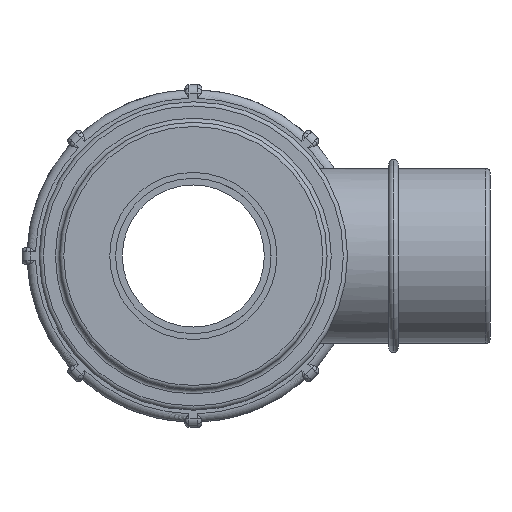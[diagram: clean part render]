
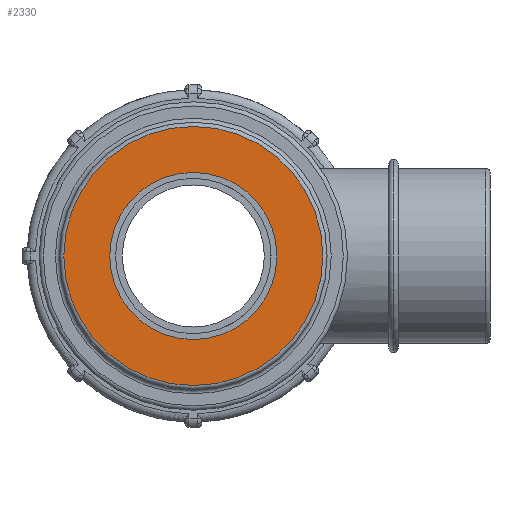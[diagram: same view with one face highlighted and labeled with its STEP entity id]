
A CAD part, left-side view. The second image highlights one B-rep face of the part: STEP entity #2330.
In plain terms, the highlighted planar face has unit normal (-1, 0, 0).
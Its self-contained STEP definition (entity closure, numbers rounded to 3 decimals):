
#255=PLANE('',#2503);
#384=FACE_BOUND('',#610,.T.);
#439=FACE_OUTER_BOUND('',#609,.T.);
#609=EDGE_LOOP('',(#1591));
#610=EDGE_LOOP('',(#1592));
#826=CIRCLE('',#2499,31.);
#829=CIRCLE('',#2504,20.);
#1015=VERTEX_POINT('',#3641);
#1018=VERTEX_POINT('',#3649);
#1245=EDGE_CURVE('',#1015,#1015,#826,.T.);
#1248=EDGE_CURVE('',#1018,#1018,#829,.T.);
#1591=ORIENTED_EDGE('',*,*,#1245,.F.);
#1592=ORIENTED_EDGE('',*,*,#1248,.T.);
#2330=ADVANCED_FACE('',(#439,#384),#255,.T.);
#2499=AXIS2_PLACEMENT_3D('',#3642,#2827,#2828);
#2503=AXIS2_PLACEMENT_3D('',#3648,#2835,#2836);
#2504=AXIS2_PLACEMENT_3D('',#3650,#2837,#2838);
#2827=DIRECTION('center_axis',(1.,0.,0.));
#2828=DIRECTION('ref_axis',(0.,-1.,0.));
#2835=DIRECTION('center_axis',(-1.,0.,0.));
#2836=DIRECTION('ref_axis',(0.,0.,1.));
#2837=DIRECTION('center_axis',(1.,0.,0.));
#2838=DIRECTION('ref_axis',(0.,0.,-1.));
#3641=CARTESIAN_POINT('',(-72.2,31.,0.));
#3642=CARTESIAN_POINT('Origin',(-72.2,0.,0.));
#3648=CARTESIAN_POINT('Origin',(-72.2,32.,0.));
#3649=CARTESIAN_POINT('',(-72.2,20.,0.));
#3650=CARTESIAN_POINT('Origin',(-72.2,0.,0.));
